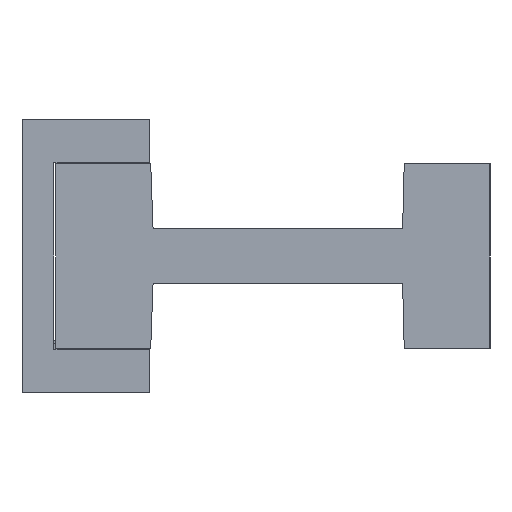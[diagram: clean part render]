
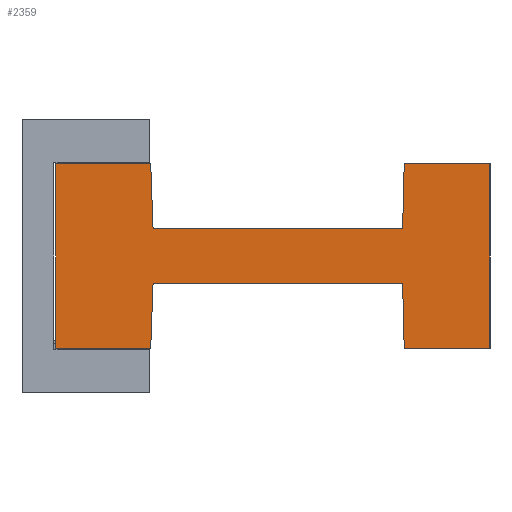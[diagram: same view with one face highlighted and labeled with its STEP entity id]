
A CAD part, left-side view. The second image highlights one B-rep face of the part: STEP entity #2359.
In plain terms, the highlighted planar face has unit normal (-1, 0, 0).
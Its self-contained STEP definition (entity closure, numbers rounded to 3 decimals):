
#123 = CARTESIAN_POINT ( 'NONE',  ( 58.513, -49., 232.26 ) ) ;
#166 = CARTESIAN_POINT ( 'NONE',  ( 58.513, -4.3, 255.96 ) ) ;
#298 = CARTESIAN_POINT ( 'NONE',  ( 58.513, -60., 255.96 ) ) ;
#302 = CARTESIAN_POINT ( 'NONE',  ( 58.513, -60., 244.11 ) ) ;
#317 = DIRECTION ( 'NONE',  ( 0., 1., 0. ) ) ;
#321 = CARTESIAN_POINT ( 'NONE',  ( 58.513, -60., 255.96 ) ) ;
#387 = CARTESIAN_POINT ( 'NONE',  ( 58.513, -60., 232.26 ) ) ;
#422 = LINE ( 'NONE', #3327, #2513 ) ;
#472 = EDGE_CURVE ( 'NONE', #3301, #735, #422, .T. ) ;
#551 = CARTESIAN_POINT ( 'NONE',  ( 58.513, -4.3, 255.96 ) ) ;
#616 = VECTOR ( 'NONE', #3649, 1000. ) ;
#621 = FACE_OUTER_BOUND ( 'NONE', #4064, .T. ) ;
#667 = EDGE_CURVE ( 'NONE', #1434, #2293, #682, .T. ) ;
#682 = LINE ( 'NONE', #321, #2716 ) ;
#720 = ORIENTED_EDGE ( 'NONE', *, *, #2643, .F. ) ;
#735 = VERTEX_POINT ( 'NONE', #2804 ) ;
#769 = VECTOR ( 'NONE', #913, 1000. ) ;
#782 = DIRECTION ( 'NONE',  ( 0., 0., -1. ) ) ;
#783 = CARTESIAN_POINT ( 'NONE',  ( 58.513, -16.8, 240.61 ) ) ;
#801 = CARTESIAN_POINT ( 'NONE',  ( 58.513, -48.8, 240.61 ) ) ;
#913 = DIRECTION ( 'NONE',  ( 0., 1., 0. ) ) ;
#917 = CARTESIAN_POINT ( 'NONE',  ( 58.513, -4.3, 255.96 ) ) ;
#972 = CARTESIAN_POINT ( 'NONE',  ( 58.513, -16.8, 247.61 ) ) ;
#1064 = VECTOR ( 'NONE', #782, 1000. ) ;
#1114 = LINE ( 'NONE', #166, #1064 ) ;
#1199 = CARTESIAN_POINT ( 'NONE',  ( 58.513, -60., 232.26 ) ) ;
#1241 = DIRECTION ( 'NONE',  ( 0., 0., 1. ) ) ;
#1259 = DIRECTION ( 'NONE',  ( 0., 1., 0. ) ) ;
#1284 = LINE ( 'NONE', #917, #3184 ) ;
#1355 = EDGE_CURVE ( 'NONE', #3405, #2511, #1284, .T. ) ;
#1408 = VECTOR ( 'NONE', #1241, 1000. ) ;
#1434 = VERTEX_POINT ( 'NONE', #298 ) ;
#1488 = EDGE_CURVE ( 'NONE', #2293, #3012, #2688, .T. ) ;
#1496 = VERTEX_POINT ( 'NONE', #387 ) ;
#1644 = DIRECTION ( 'NONE',  ( 0., 0., 1. ) ) ;
#1666 = VECTOR ( 'NONE', #2868, 1000. ) ;
#1734 = CARTESIAN_POINT ( 'NONE',  ( 58.513, -48.8, 247.61 ) ) ;
#1775 = EDGE_CURVE ( 'NONE', #3876, #3405, #2542, .T. ) ;
#1842 = LINE ( 'NONE', #2886, #2815 ) ;
#1868 = EDGE_CURVE ( 'NONE', #2511, #2784, #1114, .T. ) ;
#1912 = VERTEX_POINT ( 'NONE', #2078 ) ;
#1964 = DIRECTION ( 'NONE',  ( 0., 0.024, -1. ) ) ;
#1982 = CARTESIAN_POINT ( 'NONE',  ( 58.513, -16.8, 247.61 ) ) ;
#2011 = DIRECTION ( 'NONE',  ( -1., 0., 0. ) ) ;
#2034 = ORIENTED_EDGE ( 'NONE', *, *, #472, .F. ) ;
#2078 = CARTESIAN_POINT ( 'NONE',  ( 58.513, -16.5, 232.26 ) ) ;
#2189 = LINE ( 'NONE', #972, #769 ) ;
#2214 = CARTESIAN_POINT ( 'NONE',  ( 58.513, -16.5, 255.96 ) ) ;
#2217 = CARTESIAN_POINT ( 'NONE',  ( 58.513, -4.3, 232.26 ) ) ;
#2293 = VERTEX_POINT ( 'NONE', #2614 ) ;
#2314 = VECTOR ( 'NONE', #1964, 1000. ) ;
#2338 = ORIENTED_EDGE ( 'NONE', *, *, #1775, .T. ) ;
#2359 = ADVANCED_FACE ( 'NONE', ( #621 ), #3545, .T. ) ;
#2397 = AXIS2_PLACEMENT_3D ( 'NONE', #3222, #2011, #1644 ) ;
#2487 = EDGE_CURVE ( 'NONE', #1496, #1434, #3085, .T. ) ;
#2511 = VERTEX_POINT ( 'NONE', #551 ) ;
#2513 = VECTOR ( 'NONE', #2657, 1000. ) ;
#2525 = ORIENTED_EDGE ( 'NONE', *, *, #1488, .T. ) ;
#2542 = LINE ( 'NONE', #1982, #1666 ) ;
#2555 = ORIENTED_EDGE ( 'NONE', *, *, #1355, .T. ) ;
#2614 = CARTESIAN_POINT ( 'NONE',  ( 58.513, -49., 255.96 ) ) ;
#2643 = EDGE_CURVE ( 'NONE', #3319, #3301, #3927, .T. ) ;
#2657 = DIRECTION ( 'NONE',  ( 0., 1., 0. ) ) ;
#2672 = EDGE_CURVE ( 'NONE', #735, #1912, #3610, .T. ) ;
#2688 = LINE ( 'NONE', #3605, #2314 ) ;
#2716 = VECTOR ( 'NONE', #3802, 1000. ) ;
#2778 = DIRECTION ( 'NONE',  ( 0., 1., 0. ) ) ;
#2784 = VERTEX_POINT ( 'NONE', #2217 ) ;
#2804 = CARTESIAN_POINT ( 'NONE',  ( 58.513, -16.8, 240.61 ) ) ;
#2815 = VECTOR ( 'NONE', #1259, 1000. ) ;
#2855 = EDGE_CURVE ( 'NONE', #1496, #3319, #3577, .T. ) ;
#2868 = DIRECTION ( 'NONE',  ( 0., 0.036, 0.999 ) ) ;
#2884 = ORIENTED_EDGE ( 'NONE', *, *, #2672, .F. ) ;
#2885 = ORIENTED_EDGE ( 'NONE', *, *, #1868, .T. ) ;
#2886 = CARTESIAN_POINT ( 'NONE',  ( 58.513, -4.3, 232.26 ) ) ;
#2901 = ORIENTED_EDGE ( 'NONE', *, *, #3451, .T. ) ;
#2982 = CARTESIAN_POINT ( 'NONE',  ( 58.513, -16.8, 247.61 ) ) ;
#3012 = VERTEX_POINT ( 'NONE', #1734 ) ;
#3030 = CARTESIAN_POINT ( 'NONE',  ( 58.513, -48.8, 240.61 ) ) ;
#3085 = LINE ( 'NONE', #302, #1408 ) ;
#3184 = VECTOR ( 'NONE', #317, 1000. ) ;
#3222 = CARTESIAN_POINT ( 'NONE',  ( 58.513, -60., 244.11 ) ) ;
#3301 = VERTEX_POINT ( 'NONE', #3030 ) ;
#3319 = VERTEX_POINT ( 'NONE', #123 ) ;
#3327 = CARTESIAN_POINT ( 'NONE',  ( 58.513, -16.8, 240.61 ) ) ;
#3359 = DIRECTION ( 'NONE',  ( 0., 0.036, -0.999 ) ) ;
#3405 = VERTEX_POINT ( 'NONE', #2214 ) ;
#3418 = EDGE_CURVE ( 'NONE', #1912, #2784, #1842, .T. ) ;
#3451 = EDGE_CURVE ( 'NONE', #3012, #3876, #2189, .T. ) ;
#3545 = PLANE ( 'NONE',  #2397 ) ;
#3577 = LINE ( 'NONE', #1199, #3998 ) ;
#3605 = CARTESIAN_POINT ( 'NONE',  ( 58.513, -48.8, 247.61 ) ) ;
#3610 = LINE ( 'NONE', #783, #3929 ) ;
#3649 = DIRECTION ( 'NONE',  ( 0., 0.024, 1. ) ) ;
#3802 = DIRECTION ( 'NONE',  ( 0., 1., 0. ) ) ;
#3834 = ORIENTED_EDGE ( 'NONE', *, *, #3418, .F. ) ;
#3850 = ORIENTED_EDGE ( 'NONE', *, *, #667, .T. ) ;
#3876 = VERTEX_POINT ( 'NONE', #2982 ) ;
#3927 = LINE ( 'NONE', #801, #616 ) ;
#3929 = VECTOR ( 'NONE', #3359, 1000. ) ;
#3983 = ORIENTED_EDGE ( 'NONE', *, *, #2487, .T. ) ;
#3998 = VECTOR ( 'NONE', #2778, 1000. ) ;
#4041 = ORIENTED_EDGE ( 'NONE', *, *, #2855, .F. ) ;
#4064 = EDGE_LOOP ( 'NONE', ( #2885, #3834, #2884, #2034, #720, #4041, #3983, #3850, #2525, #2901, #2338, #2555 ) ) ;
